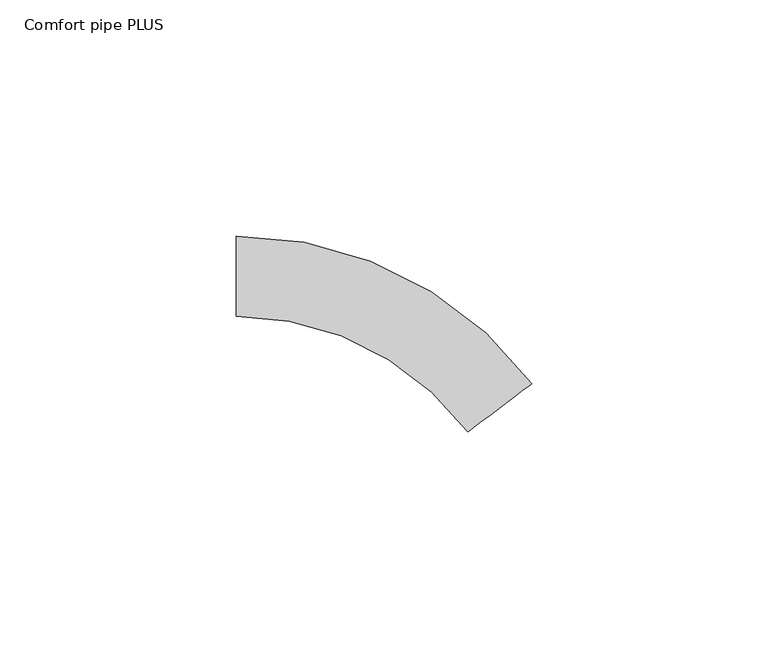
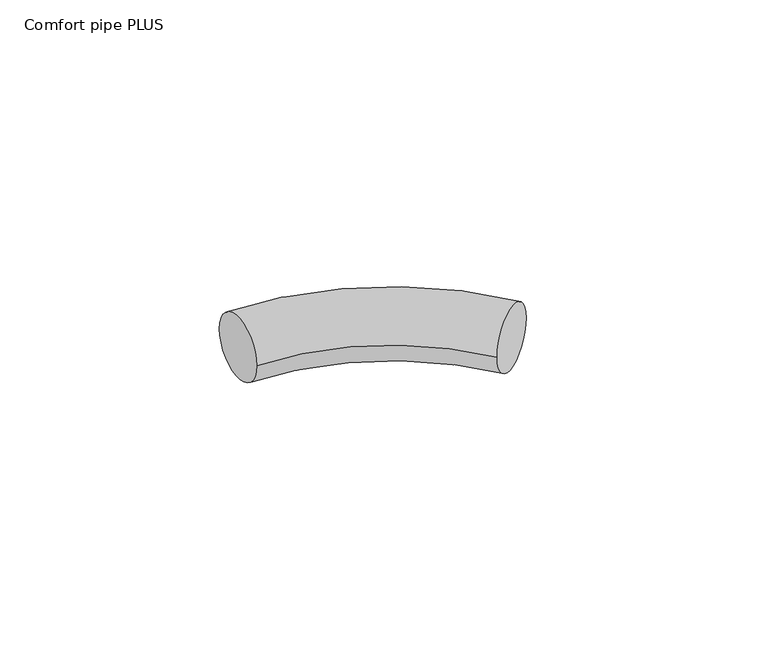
"""IFC4 building model written with IfcOpenShell, lengths in millimetres: pipe fitting geometry, 400_5-_Uponor_curved_Elbow : Comfort pipe PLUS."""

from ifc_helpers import new_model, si_unit, point, frame, origin, place, context, project, spatial, circle_curve, ellipse_curve, trimmed, source, transform, mapped, element, save
from ifc_brep_helpers import plane_surface, revolved_surface, advanced_brep


def comfort_pipe_plus_8c37c2e0(model_context):
    return source(origin(), model_context, "Body", "AdvancedBrep", [
        advanced_brep(
        [(-34.8805643, 8.5, 0.0), (-34.8805643, -8.5, 0.0), (27.7905327, -22.7286175, 0.0), (14.218448, -32.9657322, 0.0)],
        [
            (0, 1, circle_curve(frame((-34.8805643, 0.0, 0.0), z_axis=(-1.0, 0.0, 0.0), x_axis=(0.0, -1.0, 0.0)), 8.5)),
            (1, 0, circle_curve(frame((-34.8805643, 0.0, 0.0), z_axis=(-1.0, 0.0, 0.0), x_axis=(0.0, -1.0, 0.0)), 8.5)),
            (2, 3, circle_curve(frame((21.0044904, -27.8471748, 0.0), z_axis=(0.6021832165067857, -0.7983579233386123, 0.0), x_axis=(-0.7983579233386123, -0.6021832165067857, 0.0)), 8.5)),
            (3, 2, circle_curve(frame((21.0044904, -27.8471748, 0.0), z_axis=(0.6021832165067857, -0.7983579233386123, 0.0), x_axis=(-0.7983579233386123, -0.6021832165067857, 0.0)), 8.5)),
            (2, 0, circle_curve(frame((-34.8805643, -70.0, 0.0), z_axis=(0.0, 0.0, 1.0), x_axis=(0.0, 1.0, 0.0)), 78.5)),
            (1, 3, circle_curve(frame((-34.8805643, -70.0, 0.0), z_axis=(0.0, 0.0, -1.0), x_axis=(0.0, 1.0, 0.0)), 61.5)),
        ],
        [
            plane_surface(frame((-34.8805643, 0.0, 0.0), z_axis=(-1.0, 0.0, 0.0), x_axis=(0.0, 0.0, 1.0))),
            plane_surface(frame((21.0044904, -27.8471748, 0.0), z_axis=(0.6021832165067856, -0.7983579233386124, 0.0), x_axis=(0.0, 0.0, 1.0))),
            revolved_surface(trimmed(ellipse_curve(frame((-34.8805643, 0.0, 0.0), z_axis=(1.0, 0.0, 0.0), x_axis=(0.0, -1.0, 0.0)), 8.5, 8.5), [point((-34.8805643, 8.5, 0.0))], [point((-34.8805643, -8.5, 0.0))], True, "CARTESIAN"), (-34.8805643, -70.0, 0.0), (0.0, 0.0, 1.0)),
            revolved_surface(trimmed(ellipse_curve(frame((-34.8805643, 0.0, 0.0), z_axis=(1.0, 0.0, 0.0), x_axis=(0.0, -1.0, 0.0)), 8.5, 8.5), [point((-34.8805643, -8.5, 0.0))], [point((-34.8805643, 8.5, 0.0))], True, "CARTESIAN"), (-34.8805643, -70.0, 0.0), (0.0, 0.0, 1.0)),
        ],
        [
            (0, [[1, 2]]),
            (1, [[3, 4]]),
            (2, [[-3, 5, -2, 6]]),
            (3, [[-4, -6, -1, -5]]),
        ],
    ),
    ])


if __name__ == "__main__":
    model = new_model("IFC4")
    model_context = context("Model", 3, world=origin())
    ifc_project = project(units=[si_unit("LENGTHUNIT", "METRE", prefix="MILLI")], contexts=[model_context])
    site = spatial("IfcSite", under=ifc_project)
    building = spatial("IfcBuilding", under=site)
    placement = place(None, origin())
    comfort_pipe_plus_shape = comfort_pipe_plus_8c37c2e0(model_context)
    element("IfcPipeFitting", 1, ObjectType="400_5-_Uponor_curved_Elbow : Comfort pipe PLUS", at=placement, inside=building, context=model_context, shape_type="MappedRepresentation", body=[
        mapped(comfort_pipe_plus_shape, transform((0.0, 0.0, 0.0), x_axis=(1.0, 0.0, 0.0), y_axis=(0.0, 1.0, 0.0), z_axis=(0.0, 0.0, 1.0))),
    ])
    save(model, "model.ifc")
